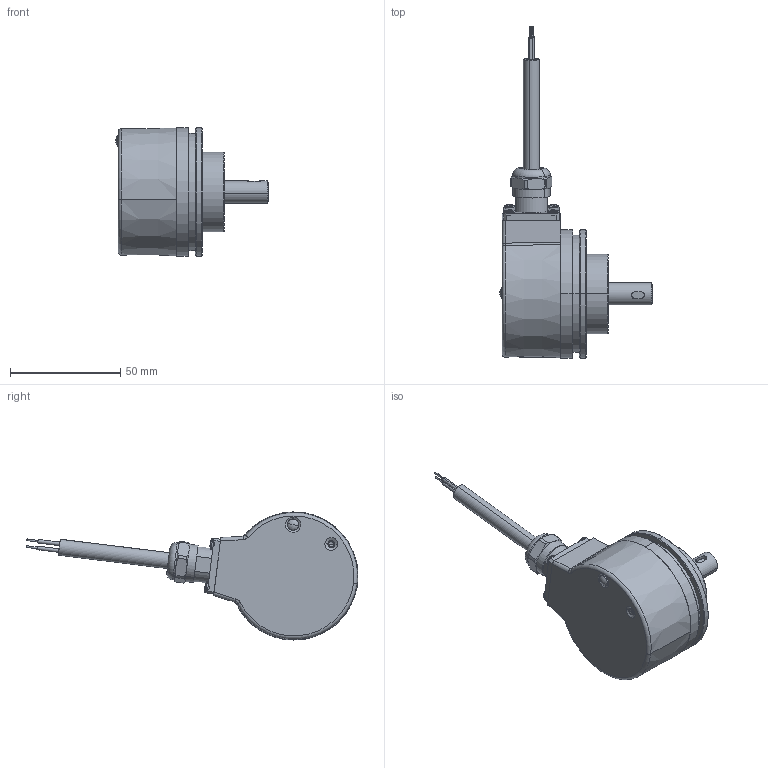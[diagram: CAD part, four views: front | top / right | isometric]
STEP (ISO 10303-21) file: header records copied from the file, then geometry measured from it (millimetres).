
FILE_DESCRIPTION (( 'STEP AP214' ), '1' );
FILE_NAME ('5853SIL.1AX2.XXXX.STEP', '2010-07-20T07:59:19', ( 'admin' ), ( 'Fritz Kübler GmbH' ), 'SwSTEP 2.0', 'SolidWorks 2009', '' );
FILE_SCHEMA (( 'AUTOMOTIVE_DESIGN' ));
Length unit declared in the file: millimetre
Products named in the file (1): 5853SIL.1AX2.XXXX
Bounding box: 69.12 x 150.33 x 58 mm (x, y, z)
Surface area: 22397.8 mm2 (no closed solid volume)
Topology: 0 solids, 15 shells, 250 faces, 636 edges, 410 vertices
Faces by surface type: plane 91, cylinder 73, cone 50, torus 20, sphere 12, bspline 4
Entity records: 10945 total; most frequent: CARTESIAN_POINT 1973, DIRECTION 1428, ORIENTED_EDGE 1160, EDGE_CURVE 636, AXIS2_PLACEMENT_3D 587, VERTEX_POINT 410, CIRCLE 340, EDGE_LOOP 287
